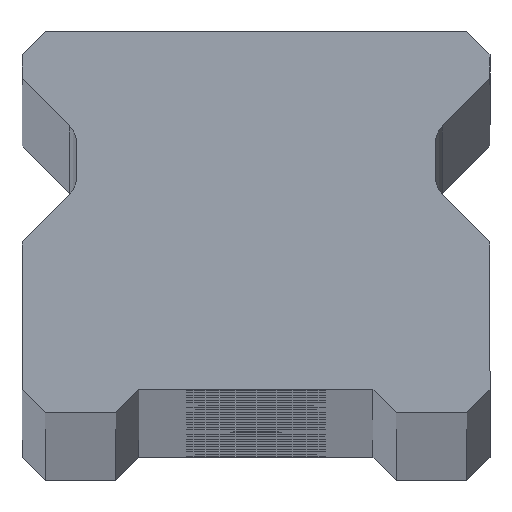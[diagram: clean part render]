
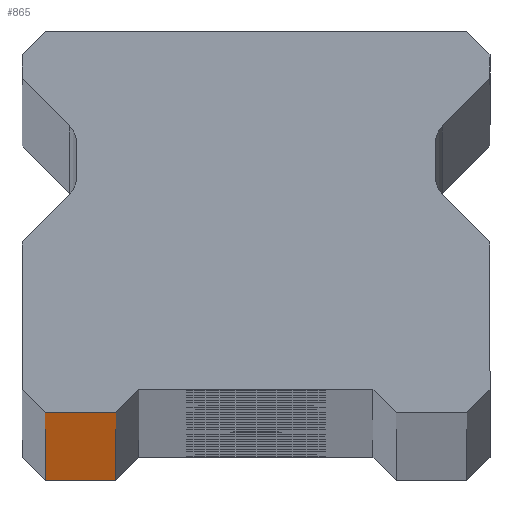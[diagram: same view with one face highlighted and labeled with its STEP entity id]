
A CAD part, top view. The second image highlights one B-rep face of the part: STEP entity #865.
In plain terms, the highlighted planar face has unit normal (0, -1, 0).
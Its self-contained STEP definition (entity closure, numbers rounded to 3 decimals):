
#69 = CARTESIAN_POINT ( 'NONE',  ( 10., 0., -830. ) ) ;
#431 = DIRECTION ( 'NONE',  ( 1., 0., 0. ) ) ;
#694 = LINE ( 'NONE', #2210, #882 ) ;
#780 = LINE ( 'NONE', #69, #904 ) ;
#865 = ADVANCED_FACE ( 'NONE', ( #5202 ), #3509, .F. ) ;
#882 = VECTOR ( 'NONE', #3420, 1000. ) ;
#904 = VECTOR ( 'NONE', #431, 1000. ) ;
#1029 = LINE ( 'NONE', #1314, #2213 ) ;
#1053 = VERTEX_POINT ( 'NONE', #2029 ) ;
#1108 = ORIENTED_EDGE ( 'NONE', *, *, #1404, .T. ) ;
#1244 = DIRECTION ( 'NONE',  ( -1., 0., 0. ) ) ;
#1314 = CARTESIAN_POINT ( 'NONE',  ( -9., 0., 830. ) ) ;
#1404 = EDGE_CURVE ( 'NONE', #3561, #1053, #1029, .T. ) ;
#1455 = CARTESIAN_POINT ( 'NONE',  ( 10., 0., 830. ) ) ;
#1480 = ORIENTED_EDGE ( 'NONE', *, *, #3396, .F. ) ;
#1575 = DIRECTION ( 'NONE',  ( 0., 1., 0. ) ) ;
#1882 = EDGE_CURVE ( 'NONE', #1053, #2993, #780, .T. ) ;
#2029 = CARTESIAN_POINT ( 'NONE',  ( -9., 0., -830. ) ) ;
#2044 = DIRECTION ( 'NONE',  ( 1., 0., 0. ) ) ;
#2133 = CARTESIAN_POINT ( 'NONE',  ( -9., 0., 830. ) ) ;
#2196 = LINE ( 'NONE', #5211, #3018 ) ;
#2210 = CARTESIAN_POINT ( 'NONE',  ( -6., 0., -830. ) ) ;
#2213 = VECTOR ( 'NONE', #4953, 1000. ) ;
#2489 = ORIENTED_EDGE ( 'NONE', *, *, #4813, .T. ) ;
#2654 = AXIS2_PLACEMENT_3D ( 'NONE', #1455, #1575, #1244 ) ;
#2743 = CARTESIAN_POINT ( 'NONE',  ( -6., 0., 830. ) ) ;
#2756 = EDGE_LOOP ( 'NONE', ( #4135, #2489, #1480, #1108 ) ) ;
#2993 = VERTEX_POINT ( 'NONE', #3074 ) ;
#3018 = VECTOR ( 'NONE', #2044, 1000. ) ;
#3074 = CARTESIAN_POINT ( 'NONE',  ( -6., 0., -830. ) ) ;
#3319 = VERTEX_POINT ( 'NONE', #2743 ) ;
#3396 = EDGE_CURVE ( 'NONE', #3561, #3319, #2196, .T. ) ;
#3420 = DIRECTION ( 'NONE',  ( 0., 0., 1. ) ) ;
#3509 = PLANE ( 'NONE',  #2654 ) ;
#3561 = VERTEX_POINT ( 'NONE', #2133 ) ;
#4135 = ORIENTED_EDGE ( 'NONE', *, *, #1882, .T. ) ;
#4813 = EDGE_CURVE ( 'NONE', #2993, #3319, #694, .T. ) ;
#4953 = DIRECTION ( 'NONE',  ( 0., 0., -1. ) ) ;
#5202 = FACE_OUTER_BOUND ( 'NONE', #2756, .T. ) ;
#5211 = CARTESIAN_POINT ( 'NONE',  ( 10., 0., 830. ) ) ;
